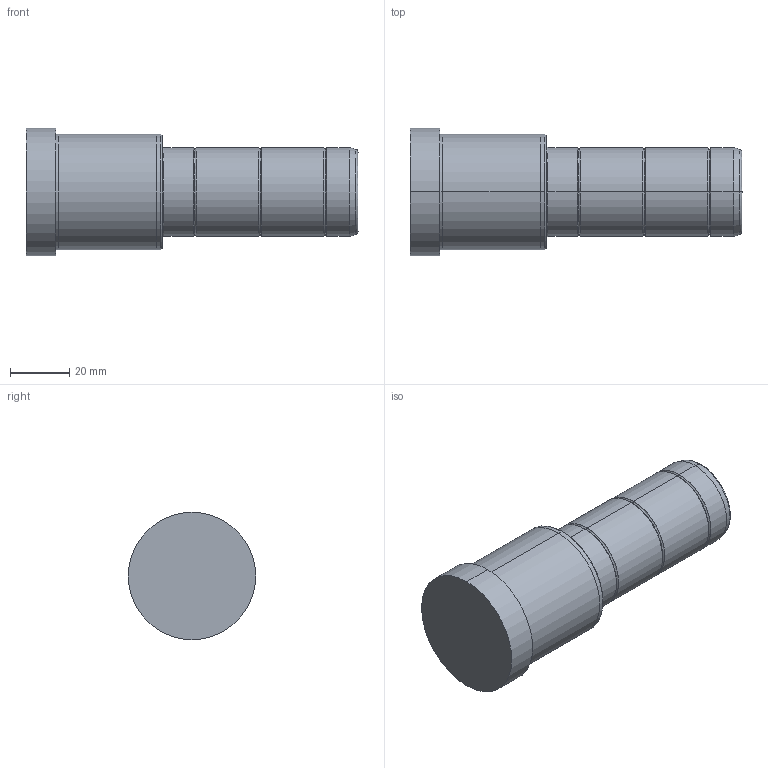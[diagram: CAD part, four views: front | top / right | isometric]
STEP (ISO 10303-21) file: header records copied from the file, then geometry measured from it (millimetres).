
FILE_DESCRIPTION( ( 'STEP AP203' ), '1' );
FILE_NAME( 'C:/Projects/D02 - 30x46x66.step', '2002-12-31T22:51:27', ( ' ' ), ( ' ' ), 'XStep 1.0', ' ', ' ' );
FILE_SCHEMA( ( 'CONFIG_CONTROL_DESIGN' ) );
Length unit declared in the file: metre
Products named in the file (1): 1
Bounding box: 112 x 43 x 43 mm (x, y, z)
Volume: 103979.2 mm3; surface area: 14894.6 mm2
Topology: 1 solids, 1 shells, 42 faces, 82 edges, 46 vertices
Faces by surface type: bspline 22, revolution 20
Entity records: 1325 total; most frequent: CARTESIAN_POINT 517, ORIENTED_EDGE 164, DIRECTION 134, EDGE_CURVE 82, AXIS2_PLACEMENT_3D 47, EDGE_LOOP 46, VERTEX_POINT 46, CIRCLE 46
